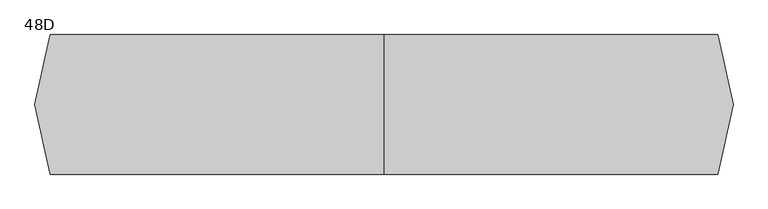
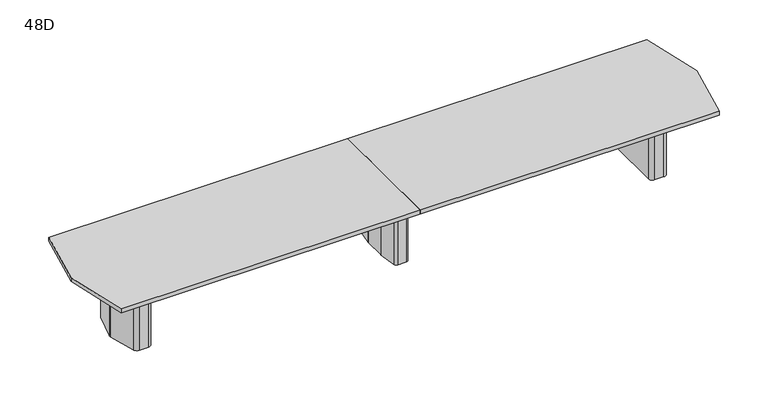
"""IFC4 building model written with IfcOpenShell, lengths in millimetres: furniture geometry, Coalesse_AM_Table_Conference_ETable2_Faceted_20ft_ThreeBase : 48D."""

from ifc_helpers import new_model, si_unit, frame, origin, place, context, project, spatial, polyline, circle_curve, outline, extrude, source, transform, mapped, element, save
from ifc_brep_helpers import plane_surface, cylinder_surface, revolved_surface, advanced_brep


def furniture_48d_7a09ad00(model_context):
    return source(origin(), model_context, "Body", "SolidModel", [
        advanced_brep(
        [(35.71875, 206.375, 3.175), (10.31875, 231.775, 3.175), (-10.31875, 231.775, 3.175), (-35.71875, 206.375, 3.175), (-35.71875, -206.375, 3.175), (-10.31875, -231.775, 3.175), (10.31875, -231.775, 3.175), (35.71875, -206.375, 3.175), (-61.11875, 206.375, 0.0), (-10.31875, 257.175, 0.0), (10.31875, 257.175, 0.0), (61.11875, 206.375, 0.0), (61.11875, -206.375, 0.0), (10.31875, -257.175, 0.0), (-10.31875, -257.175, 0.0), (-61.11875, -206.375, 0.0), (-61.11875, -206.375, 3.175), (-61.11875, 206.375, 3.175), (-10.31875, -257.175, 3.175), (10.31875, -257.175, 3.175), (61.11875, -206.375, 3.175), (61.11875, 206.375, 3.175), (10.31875, 257.175, 3.175), (-10.31875, 257.175, 3.175), (-92.6215974, 106.2976848, 698.5), (-92.86875, 102.7629613, 698.5), (-92.86875, -102.7629613, 698.5), (-92.6215974, -106.2976848, 698.5), (-67.7988375, -282.9347235, 698.5), (-42.6459902, -304.8, 698.5), (42.6459902, -304.8, 698.5), (67.7988375, -282.9347235, 698.5), (92.6215974, -106.2976848, 698.5), (92.86875, -102.7629613, 698.5), (92.86875, 102.7629613, 698.5), (92.6215974, 106.2976848, 698.5), (67.7988375, 282.9347235, 698.5), (42.6459902, 304.8, 698.5), (-42.6459902, 304.8, 698.5), (-67.7988375, 282.9347235, 698.5), (10.31875, 231.775, 698.5), (35.71875, 206.375, 698.5), (35.71875, -206.375, 698.5), (10.31875, -231.775, 698.5), (-10.31875, -231.775, 698.5), (-35.71875, -206.375, 698.5), (-35.71875, 206.375, 698.5), (-10.31875, 231.775, 698.5), (-92.6215974, 106.2976848, 3.175), (-67.7988375, 282.9347235, 3.175), (-42.6459902, 304.8, 3.175), (42.6459902, 304.8, 3.175), (67.7988375, 282.9347235, 3.175), (92.6215974, 106.2976848, 3.175), (92.86875, 102.7629613, 3.175), (92.86875, -102.7629613, 3.175), (92.6215974, -106.2976848, 3.175), (67.7988375, -282.9347235, 3.175), (42.6459902, -304.8, 3.175), (-42.6459902, -304.8, 3.175), (-67.7988375, -282.9347235, 3.175), (-92.6215974, -106.2976848, 3.175), (-92.86875, -102.7629613, 3.175), (-92.86875, 102.7629613, 3.175)],
        [
            (0, 1, circle_curve(frame((10.31875, 206.375, 3.175), z_axis=(0.0, 0.0, 1.0), x_axis=(1.0, 0.0, 0.0)), 25.4)),
            (1, 2),
            (2, 3, circle_curve(frame((-10.31875, 206.375, 3.175), z_axis=(0.0, 0.0, 1.0), x_axis=(1.0, 0.0, 0.0)), 25.4)),
            (3, 4),
            (4, 5, circle_curve(frame((-10.31875, -206.375, 3.175), z_axis=(0.0, 0.0, 1.0), x_axis=(1.0, 0.0, 0.0)), 25.4)),
            (5, 6),
            (6, 7, circle_curve(frame((10.31875, -206.375, 3.175), z_axis=(0.0, 0.0, 1.0), x_axis=(1.0, 0.0, 0.0)), 25.4)),
            (7, 0),
            (8, 9, circle_curve(frame((-10.31875, 206.375, 0.0), z_axis=(0.0, 0.0, -1.0), x_axis=(1.0, 0.0, 0.0)), 50.8)),
            (9, 10),
            (10, 11, circle_curve(frame((10.31875, 206.375, 0.0), z_axis=(0.0, 0.0, -1.0), x_axis=(1.0, 0.0, 0.0)), 50.8)),
            (11, 12),
            (12, 13, circle_curve(frame((10.31875, -206.375, 0.0), z_axis=(0.0, 0.0, -1.0), x_axis=(1.0, 0.0, 0.0)), 50.8)),
            (13, 14),
            (14, 15, circle_curve(frame((-10.31875, -206.375, 0.0), z_axis=(0.0, 0.0, -1.0), x_axis=(1.0, 0.0, 0.0)), 50.8)),
            (15, 8),
            (15, 16),
            (16, 17),
            (17, 8),
            (14, 18),
            (18, 16, circle_curve(frame((-10.31875, -206.375, 3.175), z_axis=(0.0, 0.0, -1.0), x_axis=(1.0, 0.0, 0.0)), 50.8)),
            (13, 19),
            (19, 18),
            (12, 20),
            (20, 19, circle_curve(frame((10.31875, -206.375, 3.175), z_axis=(0.0, 0.0, -1.0), x_axis=(1.0, 0.0, 0.0)), 50.8)),
            (11, 21),
            (21, 20),
            (10, 22),
            (22, 21, circle_curve(frame((10.31875, 206.375, 3.175), z_axis=(0.0, 0.0, -1.0), x_axis=(1.0, 0.0, 0.0)), 50.8)),
            (9, 23),
            (23, 22),
            (17, 23, circle_curve(frame((-10.31875, 206.375, 3.175), z_axis=(0.0, 0.0, -1.0), x_axis=(1.0, 0.0, 0.0)), 50.8)),
            (24, 25, circle_curve(frame((-67.46875, 102.7629613, 698.5), z_axis=(0.0, 0.0, 1.0), x_axis=(1.0, 0.0, 0.0)), 25.4)),
            (25, 26),
            (26, 27, circle_curve(frame((-67.46875, -102.7629613, 698.5), z_axis=(0.0, 0.0, 1.0), x_axis=(1.0, 0.0, 0.0)), 25.4)),
            (27, 28),
            (28, 29, circle_curve(frame((-42.6459902, -279.4, 698.5), z_axis=(0.0, 0.0, 1.0), x_axis=(1.0, 0.0, 0.0)), 25.4)),
            (29, 30),
            (30, 31, circle_curve(frame((42.6459902, -279.4, 698.5), z_axis=(0.0, 0.0, 1.0), x_axis=(1.0, 0.0, 0.0)), 25.4)),
            (31, 32),
            (32, 33, circle_curve(frame((67.46875, -102.7629613, 698.5), z_axis=(0.0, 0.0, 1.0), x_axis=(1.0, 0.0, 0.0)), 25.4)),
            (33, 34),
            (34, 35, circle_curve(frame((67.46875, 102.7629613, 698.5), z_axis=(0.0, 0.0, 1.0), x_axis=(1.0, 0.0, 0.0)), 25.4)),
            (35, 36),
            (36, 37, circle_curve(frame((42.6459902, 279.4, 698.5), z_axis=(0.0, 0.0, 1.0), x_axis=(1.0, 0.0, 0.0)), 25.4)),
            (37, 38),
            (38, 39, circle_curve(frame((-42.6459902, 279.4, 698.5), z_axis=(0.0, 0.0, 1.0), x_axis=(1.0, 0.0, 0.0)), 25.4)),
            (39, 24),
            (40, 41, circle_curve(frame((10.31875, 206.375, 698.5), z_axis=(0.0, 0.0, -1.0), x_axis=(1.0, 0.0, 0.0)), 25.4)),
            (41, 42),
            (42, 43, circle_curve(frame((10.31875, -206.375, 698.5), z_axis=(0.0, 0.0, -1.0), x_axis=(1.0, 0.0, 0.0)), 25.4)),
            (43, 44),
            (44, 45, circle_curve(frame((-10.31875, -206.375, 698.5), z_axis=(0.0, 0.0, -1.0), x_axis=(1.0, 0.0, 0.0)), 25.4)),
            (45, 46),
            (46, 47, circle_curve(frame((-10.31875, 206.375, 698.5), z_axis=(0.0, 0.0, -1.0), x_axis=(1.0, 0.0, 0.0)), 25.4)),
            (47, 40),
            (48, 49),
            (49, 50, circle_curve(frame((-42.6459902, 279.4, 3.175), z_axis=(0.0, 0.0, -1.0), x_axis=(1.0, 0.0, 0.0)), 25.4)),
            (50, 51),
            (51, 52, circle_curve(frame((42.6459902, 279.4, 3.175), z_axis=(0.0, 0.0, -1.0), x_axis=(1.0, 0.0, 0.0)), 25.4)),
            (52, 53),
            (53, 54, circle_curve(frame((67.46875, 102.7629613, 3.175), z_axis=(0.0, 0.0, -1.0), x_axis=(1.0, 0.0, 0.0)), 25.4)),
            (54, 55),
            (55, 56, circle_curve(frame((67.46875, -102.7629613, 3.175), z_axis=(0.0, 0.0, -1.0), x_axis=(1.0, 0.0, 0.0)), 25.4)),
            (56, 57),
            (57, 58, circle_curve(frame((42.6459902, -279.4, 3.175), z_axis=(0.0, 0.0, -1.0), x_axis=(1.0, 0.0, 0.0)), 25.4)),
            (58, 59),
            (59, 60, circle_curve(frame((-42.6459902, -279.4, 3.175), z_axis=(0.0, 0.0, -1.0), x_axis=(1.0, 0.0, 0.0)), 25.4)),
            (60, 61),
            (61, 62, circle_curve(frame((-67.46875, -102.7629613, 3.175), z_axis=(0.0, 0.0, -1.0), x_axis=(1.0, 0.0, 0.0)), 25.4)),
            (62, 63),
            (63, 48, circle_curve(frame((-67.46875, 102.7629613, 3.175), z_axis=(0.0, 0.0, -1.0), x_axis=(1.0, 0.0, 0.0)), 25.4)),
            (24, 48),
            (63, 25),
            (62, 26),
            (61, 27),
            (60, 28),
            (59, 29),
            (58, 30),
            (57, 31),
            (56, 32),
            (55, 33),
            (54, 34),
            (53, 35),
            (52, 36),
            (51, 37),
            (50, 38),
            (49, 39),
            (40, 1),
            (0, 41),
            (7, 42),
            (6, 43),
            (5, 44),
            (4, 45),
            (3, 46),
            (2, 47),
        ],
        [
            plane_surface(frame((-61.11875, -206.375, 3.175), z_axis=(0.0, 0.0, 1.0), x_axis=(0.0, -1.0, 0.0))),
            plane_surface(frame((-61.11875, -206.375, 0.0), z_axis=(0.0, 0.0, -1.0), x_axis=(0.0, 1.0, 0.0))),
            plane_surface(frame((-61.11875, 206.375, 3.175), z_axis=(-1.0, 0.0, 0.0), x_axis=(0.0, 0.0, -1.0))),
            cylinder_surface(frame((-10.31875, -206.375, 0.0), z_axis=(0.0, 0.0, 1.0), x_axis=(1.0, 0.0, 0.0)), 50.8),
            plane_surface(frame((-10.31875, -257.175, 3.175), z_axis=(0.0, -1.0, 0.0), x_axis=(0.0, 0.0, -1.0))),
            cylinder_surface(frame((10.31875, -206.375, 0.0), z_axis=(0.0, 0.0, 1.0), x_axis=(1.0, 0.0, 0.0)), 50.8),
            plane_surface(frame((61.11875, -206.375, 3.175), z_axis=(1.0, 0.0, 0.0), x_axis=(0.0, 0.0, -1.0))),
            cylinder_surface(frame((10.31875, 206.375, 0.0), z_axis=(0.0, 0.0, 1.0), x_axis=(1.0, 0.0, 0.0)), 50.8),
            plane_surface(frame((10.31875, 257.175, 3.175), z_axis=(0.0, 1.0, 0.0), x_axis=(0.0, 0.0, -1.0))),
            cylinder_surface(frame((-10.31875, 206.375, 0.0), z_axis=(0.0, 0.0, 1.0), x_axis=(1.0, 0.0, 0.0)), 50.8),
            plane_surface(frame((-42.06875, 102.7629613, 698.5), z_axis=(0.0, 0.0, 1.0), x_axis=(0.0, 1.0, 0.0))),
            plane_surface(frame((-42.06875, 102.7629613, 3.175), z_axis=(0.0, 0.0, -1.0), x_axis=(0.0, -1.0, 0.0))),
            cylinder_surface(frame((-67.46875, 102.7629613, 3.175), z_axis=(0.0, 0.0, 1.0), x_axis=(1.0, 0.0, 0.0)), 25.4),
            plane_surface(frame((-92.86875, 102.7629613, 698.5), z_axis=(-1.0, 0.0, 0.0), x_axis=(0.0, 0.0, -1.0))),
            cylinder_surface(frame((-67.46875, -102.7629613, 3.175), z_axis=(0.0, 0.0, 1.0), x_axis=(1.0, 0.0, 0.0)), 25.4),
            plane_surface(frame((-92.6215974, -106.2976848, 698.5), z_axis=(-0.9902695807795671, -0.13916234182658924, 0.0), x_axis=(0.0, 0.0, -1.0))),
            cylinder_surface(frame((-42.6459902, -279.4, 3.175), z_axis=(0.0, 0.0, 1.0), x_axis=(1.0, 0.0, 0.0)), 25.4),
            plane_surface(frame((-42.6459902, -304.8, 698.5), z_axis=(0.0, -1.0, 0.0), x_axis=(0.0, 0.0, -1.0))),
            cylinder_surface(frame((42.6459902, -279.4, 3.175), z_axis=(0.0, 0.0, 1.0), x_axis=(1.0, 0.0, 0.0)), 25.4),
            plane_surface(frame((67.7988375, -282.9347235, 698.5), z_axis=(0.9902695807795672, -0.13916234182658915, 0.0), x_axis=(0.0, 0.0, -1.0))),
            cylinder_surface(frame((67.46875, -102.7629613, 3.175), z_axis=(0.0, 0.0, 1.0), x_axis=(1.0, 0.0, 0.0)), 25.4),
            plane_surface(frame((92.86875, -102.7629613, 698.5), z_axis=(1.0, 0.0, 0.0), x_axis=(0.0, 0.0, -1.0))),
            cylinder_surface(frame((67.46875, 102.7629613, 3.175), z_axis=(0.0, 0.0, 1.0), x_axis=(1.0, 0.0, 0.0)), 25.4),
            plane_surface(frame((92.6215974, 106.2976848, 698.5), z_axis=(0.9902695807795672, 0.1391623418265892, 0.0), x_axis=(0.0, 0.0, -1.0))),
            cylinder_surface(frame((42.6459902, 279.4, 3.175), z_axis=(0.0, 0.0, 1.0), x_axis=(1.0, 0.0, 0.0)), 25.4),
            plane_surface(frame((42.6459902, 304.8, 698.5), z_axis=(0.0, 1.0, 0.0), x_axis=(0.0, 0.0, -1.0))),
            cylinder_surface(frame((-42.6459902, 279.4, 3.175), z_axis=(0.0, 0.0, 1.0), x_axis=(1.0, 0.0, 0.0)), 25.4),
            plane_surface(frame((-67.7988375, 282.9347235, 698.5), z_axis=(-0.9902695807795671, 0.13916234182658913, 0.0), x_axis=(0.0, 0.0, -1.0))),
            revolved_surface(polyline([(35.71875, 206.375, 3.175), (35.71875, 206.375, 698.5)]), (10.31875, 206.375, 0.0), (0.0, 0.0, -1.0)),
            plane_surface(frame((35.71875, 206.375, 698.5), z_axis=(-1.0, 0.0, 0.0), x_axis=(0.0, 0.0, -1.0))),
            revolved_surface(polyline([(35.71875, -206.375, 3.175), (35.71875, -206.375, 698.5)]), (10.31875, -206.375, 0.0), (0.0, 0.0, -1.0)),
            plane_surface(frame((10.31875, -231.775, 698.5), z_axis=(0.0, 1.0, 0.0), x_axis=(0.0, 0.0, -1.0))),
            revolved_surface(polyline([(15.081249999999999, -206.375, 3.175), (15.081249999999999, -206.375, 698.5)]), (-10.31875, -206.375, 0.0), (0.0, 0.0, -1.0)),
            plane_surface(frame((-35.71875, -206.375, 698.5), z_axis=(1.0, 0.0, 0.0), x_axis=(0.0, 0.0, -1.0))),
            revolved_surface(polyline([(15.081249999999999, 206.375, 3.175), (15.081249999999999, 206.375, 698.5)]), (-10.31875, 206.375, 0.0), (0.0, 0.0, -1.0)),
            plane_surface(frame((-10.31875, 231.775, 698.5), z_axis=(0.0, -1.0, 0.0), x_axis=(0.0, 0.0, -1.0))),
        ],
        [
            (0, [[1, 2, 3, 4, 5, 6, 7, 8]]),
            (1, [[9, 10, 11, 12, 13, 14, 15, 16]]),
            (2, [[-16, 17, 18, 19]]),
            (3, [[-15, 20, 21, -17]]),
            (4, [[-14, 22, 23, -20]]),
            (5, [[-13, 24, 25, -22]]),
            (6, [[-12, 26, 27, -24]]),
            (7, [[-11, 28, 29, -26]]),
            (8, [[-10, 30, 31, -28]]),
            (9, [[-9, -19, 32, -30]]),
            (10, [[33, 34, 35, 36, 37, 38, 39, 40, 41, 42, 43, 44, 45, 46, 47, 48], [49, 50, 51, 52, 53, 54, 55, 56]]),
            (11, [[57, 58, 59, 60, 61, 62, 63, 64, 65, 66, 67, 68, 69, 70, 71, 72], [-18, -21, -23, -25, -27, -29, -31, -32]]),
            (12, [[-33, 73, -72, 74]]),
            (13, [[-34, -74, -71, 75]]),
            (14, [[-35, -75, -70, 76]]),
            (15, [[-36, -76, -69, 77]]),
            (16, [[-37, -77, -68, 78]]),
            (17, [[-38, -78, -67, 79]]),
            (18, [[-39, -79, -66, 80]]),
            (19, [[-40, -80, -65, 81]]),
            (20, [[-41, -81, -64, 82]]),
            (21, [[-42, -82, -63, 83]]),
            (22, [[-43, -83, -62, 84]]),
            (23, [[-44, -84, -61, 85]]),
            (24, [[-45, -85, -60, 86]]),
            (25, [[-46, -86, -59, 87]]),
            (26, [[-47, -87, -58, 88]]),
            (27, [[-48, -88, -57, -73]]),
            (28, [[-49, 89, -1, 90]]),
            (29, [[-50, -90, -8, 91]]),
            (30, [[-51, -91, -7, 92]]),
            (31, [[-52, -92, -6, 93]]),
            (32, [[-53, -93, -5, 94]]),
            (33, [[-54, -94, -4, 95]]),
            (34, [[-55, -95, -3, 96]]),
            (35, [[-56, -96, -2, -89]]),
        ],
    ),
        advanced_brep(
        [(2589.424548, 274.2093613, 698.5), (2549.5579246, 304.8, 698.5), (2460.625, 304.8, 698.5), (2419.35, 263.525, 698.5), (2419.35, -263.525, 698.5), (2460.625, -304.8, 698.5), (2549.5579246, -304.8, 698.5), (2589.424548, -274.2093613, 698.5), (2660.0503901, -10.6333708, 698.5), (2660.0503901, 10.6333708, 698.5), (2457.45, -206.375, 698.5), (2457.45, 206.375, 698.5), (2482.85, 231.775, 698.5), (2541.8608422, 231.775, 698.5), (2566.395338, 212.9490792, 698.5), (2605.0875, 68.54974, 698.5), (2605.0875, -68.54974, 698.5), (2566.395338, -212.9490792, 698.5), (2541.8608422, -231.775, 698.5), (2482.85, -231.775, 698.5), (2589.424548, 274.2093613, 3.175), (2660.0503901, 10.6333708, 3.175), (2660.0503901, -10.6333708, 3.175), (2589.424548, -274.2093613, 3.175), (2549.5579246, -304.8, 3.175), (2460.625, -304.8, 3.175), (2419.35, -263.525, 3.175), (2419.35, 263.525, 3.175), (2460.625, 304.8, 3.175), (2549.5579246, 304.8, 3.175), (2578.6625859, 216.2361187, 3.175), (2541.8608422, 244.475, 3.175), (2482.85, 244.475, 3.175), (2444.75, 206.375, 3.175), (2444.75, -206.375, 3.175), (2482.85, -244.475, 3.175), (2541.8608422, -244.475, 3.175), (2578.6625859, -216.2361187, 3.175), (2617.7875, -70.2217466, 3.175), (2617.7875, 70.2217466, 3.175), (2482.85, -231.775, 3.175), (2457.45, -206.375, 3.175), (2541.8608422, -231.775, 3.175), (2566.395338, -212.9490792, 3.175), (2605.0875, -68.54974, 3.175), (2605.0875, 68.54974, 3.175), (2566.395338, 212.9490792, 3.175), (2541.8608422, 231.775, 3.175), (2482.85, 231.775, 3.175), (2457.45, 206.375, 3.175), (2578.6625859, 216.2361187, 0.0), (2617.7875, 70.2217466, 0.0), (2617.7875, -70.2217466, 0.0), (2578.6625859, -216.2361187, 0.0), (2541.8608422, -244.475, 0.0), (2482.85, -244.475, 0.0), (2444.75, -206.375, 0.0), (2444.75, 206.375, 0.0), (2482.85, 244.475, 0.0), (2541.8608422, 244.475, 0.0)],
        [
            (0, 1, circle_curve(frame((2549.5579246, 263.5270004, 698.5), z_axis=(0.0, 0.0, 1.0), x_axis=(-1.0, 0.0, 0.0)), 41.2729996)),
            (1, 2),
            (2, 3, circle_curve(frame((2460.625, 263.525, 698.5), z_axis=(0.0, 0.0, 1.0), x_axis=(-1.0, 0.0, 0.0)), 41.275)),
            (3, 4),
            (4, 5, circle_curve(frame((2460.625, -263.525, 698.5), z_axis=(0.0, 0.0, 1.0), x_axis=(-1.0, 0.0, 0.0)), 41.275)),
            (5, 6),
            (6, 7, circle_curve(frame((2549.5579246, -263.5270004, 698.5), z_axis=(0.0, 0.0, 1.0), x_axis=(-1.0, 0.0, 0.0)), 41.2729996)),
            (7, 8),
            (8, 9, circle_curve(frame((2620.3665979, 0.0, 698.5), z_axis=(0.0, 0.0, 1.0), x_axis=(-1.0, 0.0, 0.0)), 41.0837187)),
            (9, 0),
            (10, 11),
            (11, 12, circle_curve(frame((2482.85, 206.375, 698.5), z_axis=(0.0, 0.0, -1.0), x_axis=(-1.0, 0.0, 0.0)), 25.4)),
            (12, 13),
            (13, 14, circle_curve(frame((2541.8608422, 206.375, 698.5), z_axis=(0.0, 0.0, -1.0), x_axis=(-1.0, 0.0, 0.0)), 25.4)),
            (14, 15),
            (15, 16),
            (16, 17),
            (17, 18, circle_curve(frame((2541.8608422, -206.375, 698.5), z_axis=(0.0, 0.0, -1.0), x_axis=(-1.0, 0.0, 0.0)), 25.4)),
            (18, 19),
            (19, 10, circle_curve(frame((2482.85, -206.375, 698.5), z_axis=(0.0, 0.0, -1.0), x_axis=(-1.0, 0.0, 0.0)), 25.4)),
            (20, 21),
            (21, 22, circle_curve(frame((2620.3665979, 0.0, 3.175), z_axis=(0.0, 0.0, -1.0), x_axis=(-1.0, 0.0, 0.0)), 41.0837187)),
            (22, 23),
            (23, 24, circle_curve(frame((2549.5579246, -263.5270004, 3.175), z_axis=(0.0, 0.0, -1.0), x_axis=(-1.0, 0.0, 0.0)), 41.2729996)),
            (24, 25),
            (25, 26, circle_curve(frame((2460.625, -263.525, 3.175), z_axis=(0.0, 0.0, -1.0), x_axis=(-1.0, 0.0, 0.0)), 41.275)),
            (26, 27),
            (27, 28, circle_curve(frame((2460.625, 263.525, 3.175), z_axis=(0.0, 0.0, -1.0), x_axis=(-1.0, 0.0, 0.0)), 41.275)),
            (28, 29),
            (29, 20, circle_curve(frame((2549.5579246, 263.5270004, 3.175), z_axis=(0.0, 0.0, -1.0), x_axis=(-1.0, 0.0, 0.0)), 41.2729996)),
            (30, 31, circle_curve(frame((2541.8608422, 206.375, 3.175), z_axis=(0.0, 0.0, 1.0), x_axis=(-1.0, 0.0, 0.0)), 38.1)),
            (31, 32),
            (32, 33, circle_curve(frame((2482.85, 206.375, 3.175), z_axis=(0.0, 0.0, 1.0), x_axis=(-1.0, 0.0, 0.0)), 38.1)),
            (33, 34),
            (34, 35, circle_curve(frame((2482.85, -206.375, 3.175), z_axis=(0.0, 0.0, 1.0), x_axis=(-1.0, 0.0, 0.0)), 38.1)),
            (35, 36),
            (36, 37, circle_curve(frame((2541.8608422, -206.375, 3.175), z_axis=(0.0, 0.0, 1.0), x_axis=(-1.0, 0.0, 0.0)), 38.1)),
            (37, 38),
            (38, 39),
            (39, 30),
            (9, 21),
            (20, 0),
            (8, 22),
            (7, 23),
            (6, 24),
            (5, 25),
            (4, 26),
            (3, 27),
            (2, 28),
            (1, 29),
            (19, 40),
            (40, 41, circle_curve(frame((2482.85, -206.375, 3.175), z_axis=(0.0, 0.0, -1.0), x_axis=(-1.0, 0.0, 0.0)), 25.4)),
            (41, 10),
            (18, 42),
            (42, 40),
            (17, 43),
            (43, 42, circle_curve(frame((2541.8608422, -206.375, 3.175), z_axis=(0.0, 0.0, -1.0), x_axis=(-1.0, 0.0, 0.0)), 25.4)),
            (16, 44),
            (44, 43),
            (15, 45),
            (45, 44),
            (14, 46),
            (46, 45),
            (13, 47),
            (47, 46, circle_curve(frame((2541.8608422, 206.375, 3.175), z_axis=(0.0, 0.0, -1.0), x_axis=(-1.0, 0.0, 0.0)), 25.4)),
            (12, 48),
            (48, 47),
            (11, 49),
            (49, 48, circle_curve(frame((2482.85, 206.375, 3.175), z_axis=(0.0, 0.0, -1.0), x_axis=(-1.0, 0.0, 0.0)), 25.4)),
            (41, 49),
            (50, 51),
            (51, 52),
            (52, 53),
            (53, 54, circle_curve(frame((2541.8608422, -206.375, 0.0), z_axis=(0.0, 0.0, -1.0), x_axis=(-1.0, 0.0, 0.0)), 38.1)),
            (54, 55),
            (55, 56, circle_curve(frame((2482.85, -206.375, 0.0), z_axis=(0.0, 0.0, -1.0), x_axis=(-1.0, 0.0, 0.0)), 38.1)),
            (56, 57),
            (57, 58, circle_curve(frame((2482.85, 206.375, 0.0), z_axis=(0.0, 0.0, -1.0), x_axis=(-1.0, 0.0, 0.0)), 38.1)),
            (58, 59),
            (59, 50, circle_curve(frame((2541.8608422, 206.375, 0.0), z_axis=(0.0, 0.0, -1.0), x_axis=(-1.0, 0.0, 0.0)), 38.1)),
            (50, 30),
            (39, 51),
            (38, 52),
            (37, 53),
            (36, 54),
            (35, 55),
            (34, 56),
            (33, 57),
            (32, 58),
            (31, 59),
        ],
        [
            plane_surface(frame((2660.0374275, 10.6817473, 698.5), z_axis=(0.0, 0.0, 1.0000000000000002), x_axis=(0.25882201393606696, -0.9659250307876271, 0.0))),
            plane_surface(frame((2660.0374275, 10.6817473, 3.175), z_axis=(0.0, 0.0, -1.0000000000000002), x_axis=(-0.25882201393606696, 0.9659250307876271, 0.0))),
            plane_surface(frame((2589.424548, 274.2093613, 698.5), z_axis=(0.9659250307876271, 0.25882201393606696, 0.0), x_axis=(0.0, 0.0, -1.0))),
            cylinder_surface(frame((2620.3665979, 0.0, 3.175), z_axis=(0.0, 0.0, 1.0), x_axis=(-1.0, 0.0, 0.0)), 41.0837187),
            plane_surface(frame((2660.0503901, -10.6333708, 698.5), z_axis=(0.9659250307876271, -0.2588220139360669, 0.0), x_axis=(0.0, 0.0, -1.0))),
            cylinder_surface(frame((2549.5579246, -263.5270004, 3.175), z_axis=(0.0, 0.0, 1.0), x_axis=(-1.0, 0.0, 0.0)), 41.2729996),
            plane_surface(frame((2549.5579246, -304.8, 698.5), z_axis=(0.0, -1.0, 0.0), x_axis=(0.0, 0.0, -1.0))),
            cylinder_surface(frame((2460.625, -263.525, 3.175), z_axis=(0.0, 0.0, 1.0), x_axis=(-1.0, 0.0, 0.0)), 41.275),
            plane_surface(frame((2419.35, -263.525, 698.5), z_axis=(-1.0, 0.0, 0.0), x_axis=(0.0, 0.0, -1.0))),
            cylinder_surface(frame((2460.625, 263.525, 3.175), z_axis=(0.0, 0.0, 1.0), x_axis=(-1.0, 0.0, 0.0)), 41.275),
            plane_surface(frame((2460.625, 304.8, 698.5), z_axis=(0.0, 1.0, 0.0), x_axis=(0.0, 0.0, -1.0))),
            cylinder_surface(frame((2549.5579246, 263.5270004, 3.175), z_axis=(0.0, 0.0, 1.0), x_axis=(-1.0, 0.0, 0.0)), 41.2729996),
            revolved_surface(polyline([(2457.45, -206.375, 3.175), (2457.45, -206.375, 698.5)]), (2482.85, -206.375, 0.0), (0.0, 0.0, -1.0)),
            plane_surface(frame((2482.85, -231.775, 698.5), z_axis=(0.0, 1.0, 0.0), x_axis=(0.0, 0.0, -1.0))),
            revolved_surface(polyline([(2516.4608422, -206.375, 3.175), (2516.4608422, -206.375, 698.5)]), (2541.8608422, -206.375, 0.0), (0.0, 0.0, -1.0)),
            plane_surface(frame((2566.395338, -212.9490792, 698.5), z_axis=(-0.9659250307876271, 0.2588220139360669, 0.0), x_axis=(0.0, 0.0, -1.0))),
            plane_surface(frame((2605.0875, -68.54974, 698.5), z_axis=(-1.0, 0.0, 0.0), x_axis=(0.0, 0.0, -1.0))),
            plane_surface(frame((2605.0875, 68.54974, 698.5), z_axis=(-0.9659250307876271, -0.25882201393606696, 0.0), x_axis=(0.0, 0.0, -1.0))),
            revolved_surface(polyline([(2516.4608422, 206.375, 3.175), (2516.4608422, 206.375, 698.5)]), (2541.8608422, 206.375, 0.0), (0.0, 0.0, -1.0)),
            plane_surface(frame((2541.8608422, 231.775, 698.5), z_axis=(0.0, -1.0, 0.0), x_axis=(0.0, 0.0, -1.0))),
            revolved_surface(polyline([(2457.45, 206.375, 3.175), (2457.45, 206.375, 698.5)]), (2482.85, 206.375, 0.0), (0.0, 0.0, -1.0)),
            plane_surface(frame((2457.45, 206.375, 698.5), z_axis=(1.0, 0.0, 0.0), x_axis=(0.0, 0.0, -1.0))),
            plane_surface(frame((2617.3547479, 71.8367796, 3.175), z_axis=(0.0, 0.0, 1.0), x_axis=(0.25882201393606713, -0.965925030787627, 0.0))),
            plane_surface(frame((2617.3547479, 71.8367796, 0.0), z_axis=(0.0, 0.0, -1.0), x_axis=(-0.25882201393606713, 0.965925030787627, 0.0))),
            plane_surface(frame((2578.6625859, 216.2361187, 3.175), z_axis=(0.965925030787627, 0.25882201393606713, 0.0), x_axis=(0.0, 0.0, -1.0))),
            plane_surface(frame((2617.7875, 70.2217466, 3.175), z_axis=(1.0, 0.0, 0.0), x_axis=(0.0, 0.0, -1.0))),
            plane_surface(frame((2617.7875, -70.2217466, 3.175), z_axis=(0.9659250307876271, -0.2588220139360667, 0.0), x_axis=(0.0, 0.0, -1.0))),
            cylinder_surface(frame((2541.8608422, -206.375, 0.0), z_axis=(0.0, 0.0, 1.0), x_axis=(-1.0, 0.0, 0.0)), 38.1),
            plane_surface(frame((2541.8608422, -244.475, 3.175), z_axis=(0.0, -1.0, 0.0), x_axis=(0.0, 0.0, -1.0))),
            cylinder_surface(frame((2482.85, -206.375, 0.0), z_axis=(0.0, 0.0, 1.0), x_axis=(-1.0, 0.0, 0.0)), 38.1),
            plane_surface(frame((2444.75, -206.375, 3.175), z_axis=(-1.0, 0.0, 0.0), x_axis=(0.0, 0.0, -1.0))),
            cylinder_surface(frame((2482.85, 206.375, 0.0), z_axis=(0.0, 0.0, 1.0), x_axis=(-1.0, 0.0, 0.0)), 38.1),
            plane_surface(frame((2482.85, 244.475, 3.175), z_axis=(0.0, 1.0, 0.0), x_axis=(0.0, 0.0, -1.0))),
            cylinder_surface(frame((2541.8608422, 206.375, 0.0), z_axis=(0.0, 0.0, 1.0), x_axis=(-1.0, 0.0, 0.0)), 38.1),
        ],
        [
            (0, [[1, 2, 3, 4, 5, 6, 7, 8, 9, 10], [11, 12, 13, 14, 15, 16, 17, 18, 19, 20]]),
            (1, [[21, 22, 23, 24, 25, 26, 27, 28, 29, 30], [31, 32, 33, 34, 35, 36, 37, 38, 39, 40]]),
            (2, [[41, -21, 42, -10]]),
            (3, [[43, -22, -41, -9]]),
            (4, [[44, -23, -43, -8]]),
            (5, [[45, -24, -44, -7]]),
            (6, [[46, -25, -45, -6]]),
            (7, [[47, -26, -46, -5]]),
            (8, [[48, -27, -47, -4]]),
            (9, [[49, -28, -48, -3]]),
            (10, [[50, -29, -49, -2]]),
            (11, [[-42, -30, -50, -1]]),
            (12, [[51, 52, 53, -20]]),
            (13, [[54, 55, -51, -19]]),
            (14, [[56, 57, -54, -18]]),
            (15, [[58, 59, -56, -17]]),
            (16, [[60, 61, -58, -16]]),
            (17, [[62, 63, -60, -15]]),
            (18, [[64, 65, -62, -14]]),
            (19, [[66, 67, -64, -13]]),
            (20, [[68, 69, -66, -12]]),
            (21, [[-53, 70, -68, -11]]),
            (22, [[-55, -57, -59, -61, -63, -65, -67, -69, -70, -52]]),
            (23, [[71, 72, 73, 74, 75, 76, 77, 78, 79, 80]]),
            (24, [[81, -40, 82, -71]]),
            (25, [[-82, -39, 83, -72]]),
            (26, [[-83, -38, 84, -73]]),
            (27, [[-84, -37, 85, -74]]),
            (28, [[-85, -36, 86, -75]]),
            (29, [[-86, -35, 87, -76]]),
            (30, [[-87, -34, 88, -77]]),
            (31, [[-88, -33, 89, -78]]),
            (32, [[-89, -32, 90, -79]]),
            (33, [[-90, -31, -81, -80]]),
        ],
    ),
        advanced_brep(
        [(-2600.537048, 274.2093613, 698.5), (-2671.1628901, 10.6333708, 698.5), (-2671.1628901, -10.6333708, 698.5), (-2600.537048, -274.2093613, 698.5), (-2560.6704246, -304.8, 698.5), (-2471.7375, -304.8, 698.5), (-2430.4625, -263.525, 698.5), (-2430.4625, 263.525, 698.5), (-2471.7375, 304.8, 698.5), (-2560.6704246, 304.8, 698.5), (-2468.5625, -206.375, 698.5), (-2493.9625, -231.775, 698.5), (-2552.9733422, -231.775, 698.5), (-2577.507838, -212.9490792, 698.5), (-2616.2, -68.54974, 698.5), (-2616.2, 68.54974, 698.5), (-2577.507838, 212.9490792, 698.5), (-2552.9733422, 231.775, 698.5), (-2493.9625, 231.775, 698.5), (-2468.5625, 206.375, 698.5), (-2600.537048, 274.2093613, 3.175), (-2560.6704246, 304.8, 3.175), (-2471.7375, 304.8, 3.175), (-2430.4625, 263.525, 3.175), (-2430.4625, -263.525, 3.175), (-2471.7375, -304.8, 3.175), (-2560.6704246, -304.8, 3.175), (-2600.537048, -274.2093613, 3.175), (-2671.1628901, -10.6333708, 3.175), (-2671.1628901, 10.6333708, 3.175), (-2589.7750859, 216.2361187, 3.175), (-2628.9, 70.2217466, 3.175), (-2628.9, -70.2217466, 3.175), (-2589.7750859, -216.2361187, 3.175), (-2552.9733422, -244.475, 3.175), (-2493.9625, -244.475, 3.175), (-2455.8625, -206.375, 3.175), (-2455.8625, 206.375, 3.175), (-2493.9625, 244.475, 3.175), (-2552.9733422, 244.475, 3.175), (-2468.5625, -206.375, 3.175), (-2493.9625, -231.775, 3.175), (-2552.9733422, -231.775, 3.175), (-2577.507838, -212.9490792, 3.175), (-2616.2, -68.54974, 3.175), (-2616.2, 68.54974, 3.175), (-2577.507838, 212.9490792, 3.175), (-2552.9733422, 231.775, 3.175), (-2493.9625, 231.775, 3.175), (-2468.5625, 206.375, 3.175), (-2589.7750859, 216.2361187, 0.0), (-2552.9733422, 244.475, 0.0), (-2493.9625, 244.475, 0.0), (-2455.8625, 206.375, 0.0), (-2455.8625, -206.375, 0.0), (-2493.9625, -244.475, 0.0), (-2552.9733422, -244.475, 0.0), (-2589.7750859, -216.2361187, 0.0), (-2628.9, -70.2217466, 0.0), (-2628.9, 70.2217466, 0.0)],
        [
            (0, 1),
            (1, 2, circle_curve(frame((-2631.4790979, 0.0, 698.5), z_axis=(0.0, 0.0, 1.0), x_axis=(1.0, 0.0, 0.0)), 41.0837187)),
            (2, 3),
            (3, 4, circle_curve(frame((-2560.6704246, -263.5270004, 698.5), z_axis=(0.0, 0.0, 1.0), x_axis=(1.0, 0.0, 0.0)), 41.2729996)),
            (4, 5),
            (5, 6, circle_curve(frame((-2471.7375, -263.525, 698.5), z_axis=(0.0, 0.0, 1.0), x_axis=(1.0, 0.0, 0.0)), 41.275)),
            (6, 7),
            (7, 8, circle_curve(frame((-2471.7375, 263.525, 698.5), z_axis=(0.0, 0.0, 1.0), x_axis=(1.0, 0.0, 0.0)), 41.275)),
            (8, 9),
            (9, 0, circle_curve(frame((-2560.6704246, 263.5270004, 698.5), z_axis=(0.0, 0.0, 1.0), x_axis=(1.0, 0.0, 0.0)), 41.2729996)),
            (10, 11, circle_curve(frame((-2493.9625, -206.375, 698.5), z_axis=(0.0, 0.0, -1.0), x_axis=(1.0, 0.0, 0.0)), 25.4)),
            (11, 12),
            (12, 13, circle_curve(frame((-2552.9733422, -206.375, 698.5), z_axis=(0.0, 0.0, -1.0), x_axis=(1.0, 0.0, 0.0)), 25.4)),
            (13, 14),
            (14, 15),
            (15, 16),
            (16, 17, circle_curve(frame((-2552.9733422, 206.375, 698.5), z_axis=(0.0, 0.0, -1.0), x_axis=(1.0, 0.0, 0.0)), 25.4)),
            (17, 18),
            (18, 19, circle_curve(frame((-2493.9625, 206.375, 698.5), z_axis=(0.0, 0.0, -1.0), x_axis=(1.0, 0.0, 0.0)), 25.4)),
            (19, 10),
            (20, 21, circle_curve(frame((-2560.6704246, 263.5270004, 3.175), z_axis=(0.0, 0.0, -1.0), x_axis=(1.0, 0.0, 0.0)), 41.2729996)),
            (21, 22),
            (22, 23, circle_curve(frame((-2471.7375, 263.525, 3.175), z_axis=(0.0, 0.0, -1.0), x_axis=(1.0, 0.0, 0.0)), 41.275)),
            (23, 24),
            (24, 25, circle_curve(frame((-2471.7375, -263.525, 3.175), z_axis=(0.0, 0.0, -1.0), x_axis=(1.0, 0.0, 0.0)), 41.275)),
            (25, 26),
            (26, 27, circle_curve(frame((-2560.6704246, -263.5270004, 3.175), z_axis=(0.0, 0.0, -1.0), x_axis=(1.0, 0.0, 0.0)), 41.2729996)),
            (27, 28),
            (28, 29, circle_curve(frame((-2631.4790979, 0.0, 3.175), z_axis=(0.0, 0.0, -1.0), x_axis=(1.0, 0.0, 0.0)), 41.0837187)),
            (29, 20),
            (30, 31),
            (31, 32),
            (32, 33),
            (33, 34, circle_curve(frame((-2552.9733422, -206.375, 3.175), z_axis=(0.0, 0.0, 1.0), x_axis=(1.0, 0.0, 0.0)), 38.1)),
            (34, 35),
            (35, 36, circle_curve(frame((-2493.9625, -206.375, 3.175), z_axis=(0.0, 0.0, 1.0), x_axis=(1.0, 0.0, 0.0)), 38.1)),
            (36, 37),
            (37, 38, circle_curve(frame((-2493.9625, 206.375, 3.175), z_axis=(0.0, 0.0, 1.0), x_axis=(1.0, 0.0, 0.0)), 38.1)),
            (38, 39),
            (39, 30, circle_curve(frame((-2552.9733422, 206.375, 3.175), z_axis=(0.0, 0.0, 1.0), x_axis=(1.0, 0.0, 0.0)), 38.1)),
            (0, 20),
            (29, 1),
            (28, 2),
            (27, 3),
            (26, 4),
            (25, 5),
            (24, 6),
            (23, 7),
            (22, 8),
            (21, 9),
            (10, 40),
            (40, 41, circle_curve(frame((-2493.9625, -206.375, 3.175), z_axis=(0.0, 0.0, -1.0), x_axis=(1.0, 0.0, 0.0)), 25.4)),
            (41, 11),
            (41, 42),
            (42, 12),
            (42, 43, circle_curve(frame((-2552.9733422, -206.375, 3.175), z_axis=(0.0, 0.0, -1.0), x_axis=(1.0, 0.0, 0.0)), 25.4)),
            (43, 13),
            (43, 44),
            (44, 14),
            (44, 45),
            (45, 15),
            (45, 46),
            (46, 16),
            (46, 47, circle_curve(frame((-2552.9733422, 206.375, 3.175), z_axis=(0.0, 0.0, -1.0), x_axis=(1.0, 0.0, 0.0)), 25.4)),
            (47, 17),
            (47, 48),
            (48, 18),
            (48, 49, circle_curve(frame((-2493.9625, 206.375, 3.175), z_axis=(0.0, 0.0, -1.0), x_axis=(1.0, 0.0, 0.0)), 25.4)),
            (49, 19),
            (49, 40),
            (50, 51, circle_curve(frame((-2552.9733422, 206.375, 0.0), z_axis=(0.0, 0.0, -1.0), x_axis=(1.0, 0.0, 0.0)), 38.1)),
            (51, 52),
            (52, 53, circle_curve(frame((-2493.9625, 206.375, 0.0), z_axis=(0.0, 0.0, -1.0), x_axis=(1.0, 0.0, 0.0)), 38.1)),
            (53, 54),
            (54, 55, circle_curve(frame((-2493.9625, -206.375, 0.0), z_axis=(0.0, 0.0, -1.0), x_axis=(1.0, 0.0, 0.0)), 38.1)),
            (55, 56),
            (56, 57, circle_curve(frame((-2552.9733422, -206.375, 0.0), z_axis=(0.0, 0.0, -1.0), x_axis=(1.0, 0.0, 0.0)), 38.1)),
            (57, 58),
            (58, 59),
            (59, 50),
            (59, 31),
            (30, 50),
            (58, 32),
            (57, 33),
            (56, 34),
            (55, 35),
            (54, 36),
            (53, 37),
            (52, 38),
            (51, 39),
        ],
        [
            plane_surface(frame((-2671.1499275, 10.6817473, 698.5), z_axis=(0.0, 0.0, 1.0000000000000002), x_axis=(-0.25882201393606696, -0.9659250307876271, 0.0))),
            plane_surface(frame((-2671.1499275, 10.6817473, 3.175), z_axis=(0.0, 0.0, -1.0000000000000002), x_axis=(0.25882201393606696, 0.9659250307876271, 0.0))),
            plane_surface(frame((-2600.537048, 274.2093613, 698.5), z_axis=(-0.9659250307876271, 0.25882201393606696, 0.0), x_axis=(0.0, 0.0, -1.0))),
            cylinder_surface(frame((-2631.4790979, 0.0, 3.175), z_axis=(0.0, 0.0, 1.0), x_axis=(1.0, 0.0, 0.0)), 41.0837187),
            plane_surface(frame((-2671.1628901, -10.6333708, 698.5), z_axis=(-0.9659250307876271, -0.2588220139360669, 0.0), x_axis=(0.0, 0.0, -1.0))),
            cylinder_surface(frame((-2560.6704246, -263.5270004, 3.175), z_axis=(0.0, 0.0, 1.0), x_axis=(1.0, 0.0, 0.0)), 41.2729996),
            plane_surface(frame((-2560.6704246, -304.8, 698.5), z_axis=(0.0, -1.0, 0.0), x_axis=(0.0, 0.0, -1.0))),
            cylinder_surface(frame((-2471.7375, -263.525, 3.175), z_axis=(0.0, 0.0, 1.0), x_axis=(1.0, 0.0, 0.0)), 41.275),
            plane_surface(frame((-2430.4625, -263.525, 698.5), z_axis=(1.0, 0.0, 0.0), x_axis=(0.0, 0.0, -1.0))),
            cylinder_surface(frame((-2471.7375, 263.525, 3.175), z_axis=(0.0, 0.0, 1.0), x_axis=(1.0, 0.0, 0.0)), 41.275),
            plane_surface(frame((-2471.7375, 304.8, 698.5), z_axis=(0.0, 1.0, 0.0), x_axis=(0.0, 0.0, -1.0))),
            cylinder_surface(frame((-2560.6704246, 263.5270004, 3.175), z_axis=(0.0, 0.0, 1.0), x_axis=(1.0, 0.0, 0.0)), 41.2729996),
            revolved_surface(polyline([(-2468.5625, -206.375, 3.175), (-2468.5625, -206.375, 698.5)]), (-2493.9625, -206.375, 0.0), (0.0, 0.0, -1.0)),
            plane_surface(frame((-2493.9625, -231.775, 698.5), z_axis=(0.0, 1.0, 0.0), x_axis=(0.0, 0.0, -1.0))),
            revolved_surface(polyline([(-2527.5733422, -206.375, 3.175), (-2527.5733422, -206.375, 698.5)]), (-2552.9733422, -206.375, 0.0), (0.0, 0.0, -1.0)),
            plane_surface(frame((-2577.507838, -212.9490792, 698.5), z_axis=(0.9659250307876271, 0.2588220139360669, 0.0), x_axis=(0.0, 0.0, -1.0))),
            plane_surface(frame((-2616.2, -68.54974, 698.5), z_axis=(1.0, 0.0, 0.0), x_axis=(0.0, 0.0, -1.0))),
            plane_surface(frame((-2616.2, 68.54974, 698.5), z_axis=(0.9659250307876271, -0.25882201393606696, 0.0), x_axis=(0.0, 0.0, -1.0))),
            revolved_surface(polyline([(-2527.5733422, 206.375, 3.175), (-2527.5733422, 206.375, 698.5)]), (-2552.9733422, 206.375, 0.0), (0.0, 0.0, -1.0)),
            plane_surface(frame((-2552.9733422, 231.775, 698.5), z_axis=(0.0, -1.0, 0.0), x_axis=(0.0, 0.0, -1.0))),
            revolved_surface(polyline([(-2468.5625, 206.375, 3.175), (-2468.5625, 206.375, 698.5)]), (-2493.9625, 206.375, 0.0), (0.0, 0.0, -1.0)),
            plane_surface(frame((-2468.5625, 206.375, 698.5), z_axis=(-1.0, 0.0, 0.0), x_axis=(0.0, 0.0, -1.0))),
            plane_surface(frame((-2628.4672479, 71.8367796, 3.175), z_axis=(0.0, 0.0, 1.0), x_axis=(-0.25882201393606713, -0.965925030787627, 0.0))),
            plane_surface(frame((-2628.4672479, 71.8367796, 0.0), z_axis=(0.0, 0.0, -1.0), x_axis=(0.25882201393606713, 0.965925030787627, 0.0))),
            plane_surface(frame((-2589.7750859, 216.2361187, 3.175), z_axis=(-0.965925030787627, 0.25882201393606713, 0.0), x_axis=(0.0, 0.0, -1.0))),
            plane_surface(frame((-2628.9, 70.2217466, 3.175), z_axis=(-1.0, 0.0, 0.0), x_axis=(0.0, 0.0, -1.0))),
            plane_surface(frame((-2628.9, -70.2217466, 3.175), z_axis=(-0.9659250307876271, -0.2588220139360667, 0.0), x_axis=(0.0, 0.0, -1.0))),
            cylinder_surface(frame((-2552.9733422, -206.375, 0.0), z_axis=(0.0, 0.0, 1.0), x_axis=(1.0, 0.0, 0.0)), 38.1),
            plane_surface(frame((-2552.9733422, -244.475, 3.175), z_axis=(0.0, -1.0, 0.0), x_axis=(0.0, 0.0, -1.0))),
            cylinder_surface(frame((-2493.9625, -206.375, 0.0), z_axis=(0.0, 0.0, 1.0), x_axis=(1.0, 0.0, 0.0)), 38.1),
            plane_surface(frame((-2455.8625, -206.375, 3.175), z_axis=(1.0, 0.0, 0.0), x_axis=(0.0, 0.0, -1.0))),
            cylinder_surface(frame((-2493.9625, 206.375, 0.0), z_axis=(0.0, 0.0, 1.0), x_axis=(1.0, 0.0, 0.0)), 38.1),
            plane_surface(frame((-2493.9625, 244.475, 3.175), z_axis=(0.0, 1.0, 0.0), x_axis=(0.0, 0.0, -1.0))),
            cylinder_surface(frame((-2552.9733422, 206.375, 0.0), z_axis=(0.0, 0.0, 1.0), x_axis=(1.0, 0.0, 0.0)), 38.1),
        ],
        [
            (0, [[1, 2, 3, 4, 5, 6, 7, 8, 9, 10], [11, 12, 13, 14, 15, 16, 17, 18, 19, 20]]),
            (1, [[21, 22, 23, 24, 25, 26, 27, 28, 29, 30], [31, 32, 33, 34, 35, 36, 37, 38, 39, 40]]),
            (2, [[-1, 41, -30, 42]]),
            (3, [[-2, -42, -29, 43]]),
            (4, [[-3, -43, -28, 44]]),
            (5, [[-4, -44, -27, 45]]),
            (6, [[-5, -45, -26, 46]]),
            (7, [[-6, -46, -25, 47]]),
            (8, [[-7, -47, -24, 48]]),
            (9, [[-8, -48, -23, 49]]),
            (10, [[-9, -49, -22, 50]]),
            (11, [[-10, -50, -21, -41]]),
            (12, [[-11, 51, 52, 53]]),
            (13, [[-12, -53, 54, 55]]),
            (14, [[-13, -55, 56, 57]]),
            (15, [[-14, -57, 58, 59]]),
            (16, [[-15, -59, 60, 61]]),
            (17, [[-16, -61, 62, 63]]),
            (18, [[-17, -63, 64, 65]]),
            (19, [[-18, -65, 66, 67]]),
            (20, [[-19, -67, 68, 69]]),
            (21, [[-20, -69, 70, -51]]),
            (22, [[-52, -70, -68, -66, -64, -62, -60, -58, -56, -54]]),
            (23, [[71, 72, 73, 74, 75, 76, 77, 78, 79, 80]]),
            (24, [[-80, 81, -31, 82]]),
            (25, [[-79, 83, -32, -81]]),
            (26, [[-78, 84, -33, -83]]),
            (27, [[-77, 85, -34, -84]]),
            (28, [[-76, 86, -35, -85]]),
            (29, [[-75, 87, -36, -86]]),
            (30, [[-74, 88, -37, -87]]),
            (31, [[-73, 89, -38, -88]]),
            (32, [[-72, 90, -39, -89]]),
            (33, [[-71, -82, -40, -90]]),
        ],
    ),
        extrude(outline(polyline([(2912.8541794, 609.6), (3048.0, 0.0), (2912.8541794, -609.6), (0.0, -609.6), (0.0, 609.6), (2912.8541794, 609.6)])), frame((0.0, 0.0, 698.5), z_axis=(0.0, 0.0, 1.0), x_axis=(1.0, 0.0, 0.0)), (0.0, 0.0, 1.0), 38.1),
        extrude(outline(polyline([(0.0, -609.6), (-2912.8541794, -609.6), (-3048.0, 0.0), (-2912.8541794, 609.6), (0.0, 609.6), (0.0, -609.6)])), frame((0.0, 0.0, 698.5), z_axis=(0.0, 0.0, 1.0), x_axis=(1.0, 0.0, 0.0)), (0.0, 0.0, 1.0), 38.1),
        extrude(outline(polyline([(96.8375, 698.5), (103.1875, 698.5), (103.1875, 476.25), (-103.1875, 476.25), (-103.1875, 698.5), (-96.8375, 698.5), (-96.8375, 482.6), (96.8375, 482.6), (96.8375, 698.5)])), frame((-2430.4625, 0.0, 0.0), z_axis=(1.0, 0.0, 0.0), x_axis=(0.0, 1.0, 0.0)), (0.0, 0.0, 1.0), 4849.8125),
    ])


if __name__ == "__main__":
    model = new_model("IFC4")
    model_context = context("Model", 3, world=origin())
    ifc_project = project(units=[si_unit("LENGTHUNIT", "METRE", prefix="MILLI")], contexts=[model_context])
    site = spatial("IfcSite", under=ifc_project)
    building = spatial("IfcBuilding", under=site)
    placement = place(None, origin())
    furniture_48d_shape = furniture_48d_7a09ad00(model_context)
    element("IfcFurniture", 1, ObjectType="Coalesse_AM_Table_Conference_ETable2_Faceted_20ft_ThreeBase : 48D", at=placement, inside=building, context=model_context, shape_type="MappedRepresentation", body=[
        mapped(furniture_48d_shape, transform((0.0, 0.0, 0.0), x_axis=(1.0, 0.0, 0.0), y_axis=(0.0, 1.0, 0.0), z_axis=(0.0, 0.0, 1.0))),
    ])
    save(model, "model.ifc")
